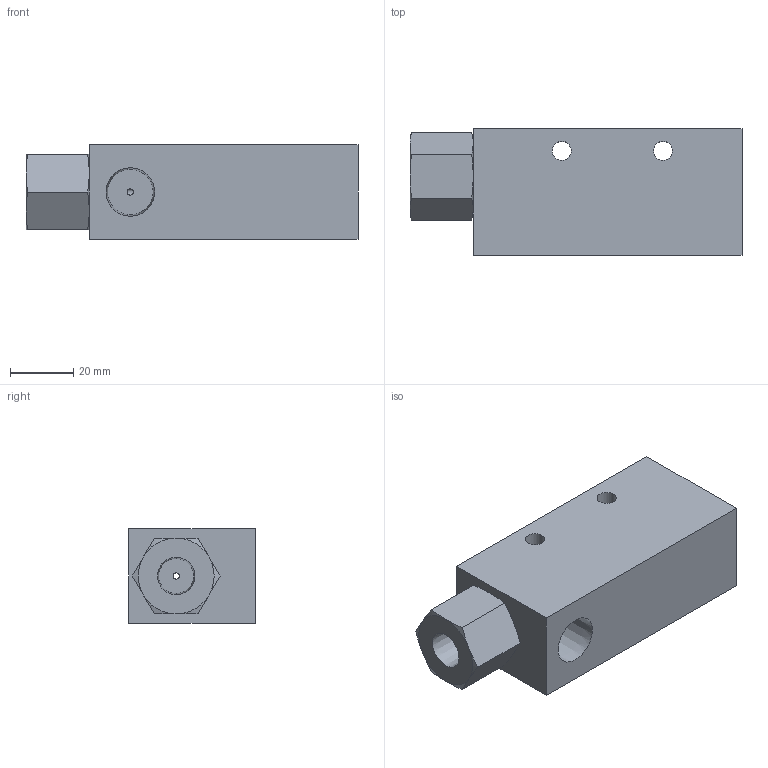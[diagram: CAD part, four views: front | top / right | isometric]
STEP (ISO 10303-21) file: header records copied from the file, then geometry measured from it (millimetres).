
FILE_DESCRIPTION(('STEP AP203'),'1');
FILE_NAME('BCV-20HSNS_3D.stp','2024-06-22T05:46:10',(' '),(' '),'Spatial InterOp 3D',' ',' ');
FILE_SCHEMA(('CONFIG_CONTROL_DESIGN'));
Length unit declared in the file: millimetre
Products named in the file (1): 1
Bounding box: 105 x 40 x 30 mm (x, y, z)
Volume: 101771.7 mm3; surface area: 19480 mm2
Topology: 1 solids, 1 shells, 36 faces, 81 edges, 50 vertices
Faces by surface type: cone 16, plane 15, cylinder 5
Full cylindrical faces by diameter (mm): 2 x2, 6 x2, 19.08 x1
Entity records: 1042 total; most frequent: CARTESIAN_POINT 251, DIRECTION 148, ORIENTED_EDGE 140, EDGE_CURVE 70, AXIS2_PLACEMENT_3D 65, EDGE_LOOP 56, VERTEX_POINT 48, FACE_OUTER_BOUND 41
